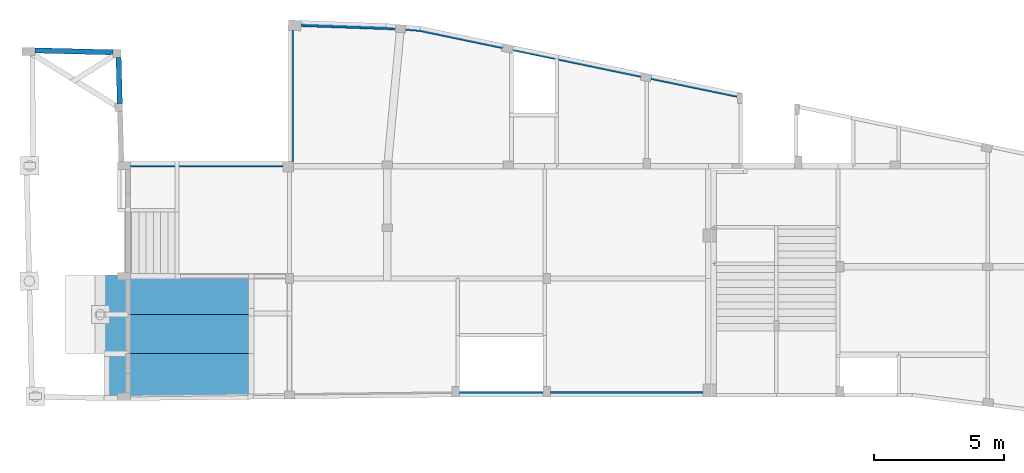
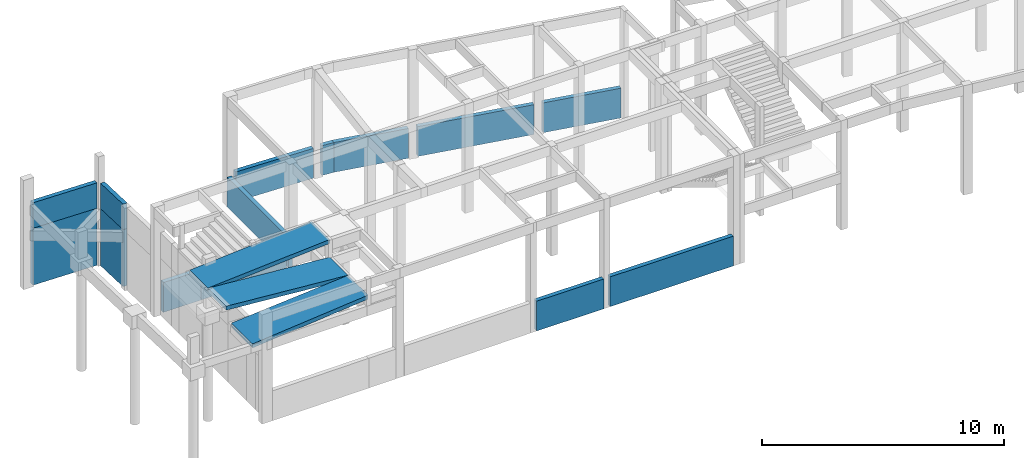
# One storey, part 6 of 8: 14 walls, 3 ramp flights.
"""IFC4 building model written with IfcOpenShell, lengths in centimetres."""

from ifc_helpers import new_model, si_unit, derived_unit, frame, origin, origin_with_axes, origin_2d_with_axis, place, context, project, spatial, rectangle, extrude, clip, halfspace, faceted_brep, material, element, save


model = new_model("IFC4")

# Units and contexts
model_context = context("Model", 3, precision=1e-05, world=origin_with_axes(), identifier="Body")
ifc_project = project(units=[si_unit("LENGTHUNIT", "METRE", prefix="CENTI"), si_unit("VOLUMEUNIT", "CUBIC_METRE"), si_unit("AREAUNIT", "SQUARE_METRE"), si_unit("POWERUNIT", "WATT"), si_unit("LUMINOUSFLUXUNIT", "LUMEN"), si_unit("ELECTRICCURRENTUNIT", "AMPERE"), si_unit("PRESSUREUNIT", "PASCAL", prefix="KILO"), si_unit("MASSUNIT", "GRAM", prefix="KILO"), si_unit("PLANEANGLEUNIT", "RADIAN"), derived_unit("VOLUMETRICFLOWRATEUNIT", [(si_unit("LENGTHUNIT", "METRE"), 3), (si_unit("TIMEUNIT", "SECOND"), -1)])], contexts=[model_context])

# Site, building, storey
site_placement = place(None, origin_with_axes())
site = spatial("IfcSite", under=ifc_project, at=site_placement)
building_placement = place(site_placement, origin())
building = spatial("IfcBuilding", under=site, at=building_placement)
placement = place(building_placement, origin_with_axes())
storey_placement = place(placement, frame((0.0, 0.0, 550.0), z_axis=(0.0, 0.0, 1.0), x_axis=(1.0, 0.0, 0.0)))
storey = spatial("IfcBuildingStorey", under=building, at=storey_placement, Name="TÉRREO", CompositionType="ELEMENT", Elevation=550.0)

# Walls
ifc_material = material(Name="Concreto")
wall_1_placement = place(storey_placement, frame((1255.98, 84.5, -400.0), z_axis=(0.0, 0.0, 1.0), x_axis=(1.0, 0.0, 0.0)))
element("IfcWall", 1, at=wall_1_placement, inside=storey, material=ifc_material, Name="PAR1", PredefinedType="SHEAR", context=model_context, shape_type="SolidModel", body=[
    extrude(rectangle(XDim=20.0, YDim=150.0, at=origin_2d_with_axis()), frame((181.02, -6.42, -75.0), z_axis=(-0.999371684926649, 0.035443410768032, 0.0), x_axis=(0.035443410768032, 0.999371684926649, 0.0)), (0.0, 0.0, 1.0), 362.26761820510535),
    extrude(rectangle(XDim=20.0, YDim=50.0, at=origin_2d_with_axis()), frame((181.02, -6.42, -25.0), z_axis=(-0.999371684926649, 0.035443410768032, 0.0), x_axis=(0.035443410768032, 0.999371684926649, 0.0)), (0.0, 0.0, 1.0), 362.26761820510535),
])
wall_2_placement = place(storey_placement, frame((2587.67, -147.23, -400.0), z_axis=(0.0, 0.0, 1.0), x_axis=(1.0, 0.0, 0.0)))
element("IfcWall", 2, at=wall_2_placement, inside=storey, material=ifc_material, Name="PAR10-A", PredefinedType="SHEAR", context=model_context, shape_type="SolidModel", body=[
    extrude(rectangle(XDim=20.0, YDim=150.0, at=origin_2d_with_axis()), frame((165.33, -34.33, -75.0), z_axis=(-0.979114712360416, 0.203308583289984, 0.0), x_axis=(0.203308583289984, 0.979114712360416, 0.0)), (0.0, 0.0, 1.0), 337.71323811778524),
    extrude(rectangle(XDim=20.0, YDim=50.0, at=origin_2d_with_axis()), frame((165.33, -34.33, -25.0), z_axis=(-0.979114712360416, 0.203308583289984, 0.0), x_axis=(0.203308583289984, 0.979114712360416, 0.0)), (0.0, 0.0, 1.0), 337.71323811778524),
])
wall_3_placement = place(storey_placement, frame((2136.08, -53.46, -400.0), z_axis=(0.0, 0.0, 1.0), x_axis=(1.0, 0.0, 0.0)))
element("IfcWall", 3, at=wall_3_placement, inside=storey, material=ifc_material, Name="PAR10-B", PredefinedType="SHEAR", context=model_context, shape_type="SolidModel", body=[
    extrude(rectangle(XDim=20.0, YDim=150.0, at=origin_2d_with_axis()), frame((247.1, -51.31, -75.0), z_axis=(-0.979114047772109, 0.203311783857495, 0.0), x_axis=(0.203311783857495, 0.979114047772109, 0.0)), (0.0, 0.0, 1.0), 504.7420176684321),
    extrude(rectangle(XDim=20.0, YDim=50.0, at=origin_2d_with_axis()), frame((247.1, -51.31, -25.0), z_axis=(-0.979114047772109, 0.203311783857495, 0.0), x_axis=(0.203311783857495, 0.979114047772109, 0.0)), (0.0, 0.0, 1.0), 504.7420176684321),
])
wall_4_placement = place(storey_placement, frame((1690.695, 39.08136093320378, -400.0), z_axis=(0.0, 0.0, 1.0), x_axis=(1.0, 0.0, 0.0)))
element("IfcWall", 4, at=wall_4_placement, inside=storey, material=ifc_material, Name="PAR10-C", PredefinedType="SHEAR", context=model_context, shape_type="Clipping", body=[
    clip(extrude(rectangle(XDim=20.0, YDim=150.0, at=origin_2d_with_axis()), frame((159.125, -33.10136093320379, -75.0), z_axis=(-0.979116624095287, 0.203299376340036, 0.0), x_axis=(0.203299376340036, 0.979116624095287, 0.0)), (0.0, 0.0, 1.0), 325.6415393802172), halfspace(frame((-160.56694906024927, 23.0647509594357, -150.0), z_axis=(0.989587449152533, -0.143932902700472, 0.0), x_axis=(0.0, 0.0, 0.060255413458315)), True)),
    extrude(rectangle(XDim=20.0, YDim=50.0, at=origin_2d_with_axis()), frame((159.125, -33.10136093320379, -25.0), z_axis=(-0.979116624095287, 0.203299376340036, 0.0), x_axis=(0.203299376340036, 0.979116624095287, 0.0)), (0.0, 0.0, 1.0), 325.0378884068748),
])
wall_5_placement = place(storey_placement, frame((1504.600757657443, 74.36, -400.0), z_axis=(0.0, 0.0, 1.0), x_axis=(1.0, 0.0, 0.0)))
element("IfcWall", 5, at=wall_5_placement, inside=storey, material=ifc_material, Name="PAR10-D", PredefinedType="SHEAR", context=model_context, shape_type="Clipping", body=[
    clip(extrude(rectangle(XDim=20.0, YDim=150.0, at=origin_2d_with_axis()), frame((27.570757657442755, -2.350732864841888, -75.0), z_axis=(-0.996462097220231, 0.08404337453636, 0.0), x_axis=(0.08404337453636, 0.996462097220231, 0.0)), (0.0, 0.0, 1.0), 55.337293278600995), halfspace(frame((25.52729328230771, -12.213888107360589, 0.0), z_axis=(-0.989587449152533, 0.143932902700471, 0.0), x_axis=(0.0, 0.0, 0.060255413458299)), True)),
    extrude(rectangle(XDim=20.0, YDim=50.0, at=origin_2d_with_axis()), frame((26.96924234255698, -2.3, -25.0), z_axis=(-0.996462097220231, 0.08404337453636, 0.0), x_axis=(0.08404337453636, 0.996462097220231, 0.0)), (0.0, 0.0, 1.0), 54.73364230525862),
])
wall_6_placement = place(storey_placement, frame((200.475, -14.15, -263.0), z_axis=(0.0, 0.0, 1.0), x_axis=(1.0, 0.0, 0.0)))
element("IfcWall", 6, at=wall_6_placement, inside=storey, material=ifc_material, Name="PAR2", PredefinedType="SHEAR", context=model_context, shape_type="SolidModel", body=[
    extrude(rectangle(XDim=20.0, YDim=287.0, at=origin_2d_with_axis()), frame((-150.475, 3.66, -143.5), z_axis=(0.999704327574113, -0.024315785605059, 0.0), x_axis=(0.024315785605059, 0.999704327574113, 0.0)), (0.0, 0.0, 1.0), 301.0390089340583),
])
wall_7_placement = place(storey_placement, frame((200.475, -14.15, -135.0), z_axis=(0.0, 0.0, 1.0), x_axis=(1.0, 0.0, 0.0)))
element("IfcWall", 7, at=wall_7_placement, inside=storey, material=ifc_material, Name="PAR2", PredefinedType="SHEAR", context=model_context, shape_type="SolidModel", body=[
    extrude(rectangle(XDim=20.0, YDim=128.0, at=origin_2d_with_axis()), frame((-150.475, 3.66, -64.0), z_axis=(0.999704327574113, -0.024315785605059, 0.0), x_axis=(0.024315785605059, 0.999704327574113, 0.0)), (0.0, 0.0, 1.0), 301.0390089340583),
    extrude(rectangle(XDim=20.0, YDim=50.0, at=origin_2d_with_axis()), frame((-150.475, 3.66, -25.0), z_axis=(0.999704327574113, -0.024315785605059, 0.0), x_axis=(0.024315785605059, 0.999704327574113, 0.0)), (0.0, 0.0, 1.0), 301.0390089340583),
])
wall_8_placement = place(storey_placement, frame((800.75, -448.8, -400.0), z_axis=(0.0, 0.0, 1.0), x_axis=(1.0, 0.0, 0.0)))
element("IfcWall", 8, at=wall_8_placement, inside=storey, material=ifc_material, Name="PAR3-A", PredefinedType="SHEAR", context=model_context, shape_type="SolidModel", body=[
    extrude(rectangle(XDim=20.0, YDim=150.0, at=origin_2d_with_axis()), frame((204.25, 0.0, -75.0), z_axis=(-1.0, 0.0, 0.0), x_axis=(0.0, 1.0, 0.0)), (0.0, 0.0, 1.0), 408.5),
    extrude(rectangle(XDim=20.0, YDim=50.0, at=origin_2d_with_axis()), frame((204.25, 0.0, -25.0), z_axis=(-1.0, 0.0, 0.0), x_axis=(0.0, 1.0, 0.0)), (0.0, 0.0, 1.0), 408.5),
])
wall_9_placement = place(storey_placement, frame((507.125, -448.8, -400.0), z_axis=(0.0, 0.0, 1.0), x_axis=(1.0, 0.0, 0.0)))
element("IfcWall", 9, at=wall_9_placement, inside=storey, material=ifc_material, Name="PAR3-B", PredefinedType="SHEAR", context=model_context, shape_type="SolidModel", body=[
    extrude(rectangle(XDim=20.0, YDim=150.0, at=origin_2d_with_axis()), frame((89.375, 0.0, -75.0), z_axis=(-1.0, 0.0, 0.0), x_axis=(0.0, -1.0, 0.0)), (0.0, 0.0, 1.0), 178.75),
    extrude(rectangle(XDim=20.0, YDim=50.0, at=origin_2d_with_axis()), frame((89.375, 0.0, -25.0), z_axis=(-1.0, 0.0, 0.0), x_axis=(0.0, -1.0, 0.0)), (0.0, 0.0, 1.0), 178.75),
])
wall_10_placement = place(storey_placement, frame((1844.6, -1334.1, -400.0), z_axis=(0.0, 0.0, 1.0), x_axis=(1.0, 0.0, 0.0)))
element("IfcWall", 10, at=wall_10_placement, inside=storey, material=ifc_material, Name="PAR5-A", PredefinedType="SHEAR", context=model_context, shape_type="SolidModel", body=[
    extrude(rectangle(XDim=20.0, YDim=150.0, at=origin_2d_with_axis()), frame((-160.0, 0.0, -75.0), z_axis=(1.0, 0.0, 0.0), x_axis=(0.0, -1.0, 0.0)), (0.0, 0.0, 1.0), 320.0),
    extrude(rectangle(XDim=20.0, YDim=50.0, at=origin_2d_with_axis()), frame((-160.0, 0.0, -25.0), z_axis=(1.0, 0.0, 0.0), x_axis=(0.0, -1.0, 0.0)), (0.0, 0.0, 1.0), 320.0),
])
wall_11_placement = place(storey_placement, frame((2328.1, -1334.1, -400.0), z_axis=(0.0, 0.0, 1.0), x_axis=(1.0, 0.0, 0.0)))
element("IfcWall", 11, at=wall_11_placement, inside=storey, material=ifc_material, Name="PAR5-B", PredefinedType="SHEAR", context=model_context, shape_type="SolidModel", body=[
    extrude(rectangle(XDim=20.0, YDim=150.0, at=origin_2d_with_axis()), frame((-293.5, 0.0, -75.0), z_axis=(1.0, 0.0, 0.0), x_axis=(0.0, -1.0, 0.0)), (0.0, 0.0, 1.0), 587.0),
    extrude(rectangle(XDim=20.0, YDim=50.0, at=origin_2d_with_axis()), frame((-293.5, 0.0, -25.0), z_axis=(1.0, 0.0, 0.0), x_axis=(0.0, -1.0, 0.0)), (0.0, 0.0, 1.0), 587.0),
])
wall_12_placement = place(storey_placement, frame((374.12, -126.39, -263.0), z_axis=(0.0, 0.0, 1.0), x_axis=(1.0, 0.0, 0.0)))
element("IfcWall", 12, at=wall_12_placement, inside=storey, material=ifc_material, Name="PAR8-A", PredefinedType="SHEAR", context=model_context, shape_type="SolidModel", body=[
    extrude(rectangle(XDim=20.0, YDim=287.0, at=origin_2d_with_axis()), frame((-2.37, 88.59, -143.5), z_axis=(0.02674288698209, -0.999642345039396, 0.0), x_axis=(0.999642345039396, 0.02674288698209, 0.0)), (0.0, 0.0, 1.0), 177.2433919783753),
])
wall_13_placement = place(storey_placement, frame((374.12, -126.39, -135.0), z_axis=(0.0, 0.0, 1.0), x_axis=(1.0, 0.0, 0.0)))
element("IfcWall", 13, at=wall_13_placement, inside=storey, material=ifc_material, Name="PAR8-A", PredefinedType="SHEAR", context=model_context, shape_type="SolidModel", body=[
    extrude(rectangle(XDim=20.0, YDim=128.0, at=origin_2d_with_axis()), frame((-2.37, 88.59, -64.0), z_axis=(0.02674288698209, -0.999642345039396, 0.0), x_axis=(0.999642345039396, 0.02674288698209, 0.0)), (0.0, 0.0, 1.0), 177.2433919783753),
    extrude(rectangle(XDim=20.0, YDim=50.0, at=origin_2d_with_axis()), frame((-2.37, 88.59, -25.0), z_axis=(0.02674288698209, -0.999642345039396, 0.0), x_axis=(0.999642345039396, 0.02674288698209, 0.0)), (0.0, 0.0, 1.0), 177.2433919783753),
])
wall_14_placement = place(storey_placement, frame((1035.0, -186.265, -400.0), z_axis=(0.0, 0.0, 1.0), x_axis=(1.0, 0.0, 0.0)))
element("IfcWall", 14, at=wall_14_placement, inside=storey, material=ifc_material, Name="PAR9", PredefinedType="SHEAR", context=model_context, shape_type="SolidModel", body=[
    extrude(rectangle(XDim=20.0, YDim=150.0, at=origin_2d_with_axis()), frame((0.0, 252.535, -75.0), z_axis=(0.0, -1.0, 0.0), x_axis=(1.0, 0.0, 0.0)), (0.0, 0.0, 1.0), 505.07),
    extrude(rectangle(XDim=20.0, YDim=50.0, at=origin_2d_with_axis()), frame((0.0, 252.535, -25.0), z_axis=(0.0, -1.0, 0.0), x_axis=(1.0, 0.0, 0.0)), (0.0, 0.0, 1.0), 505.07),
])

# Ramp flights
ramp_flight_1_placement = place(storey_placement, frame((592.1, -952.1, 0.0), z_axis=(0.0, 0.0, 1.0), x_axis=(1.0, 0.0, 0.0)))
element("IfcRampFlight", 15, at=ramp_flight_1_placement, inside=storey, material=ifc_material, Name="LE10", context=model_context, shape_type="SolidModel", body=[
    faceted_brep([(-290.5, -75.25, -62.05218912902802), (-290.5, 75.25, -62.05218912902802), (290.5, 75.25, -20.052189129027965), (290.5, -75.25, -20.052189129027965), (290.5, -75.25, 0.0), (290.5, 75.25, 0.0), (-290.5, 75.25, -42.0), (-290.5, -75.25, -42.0)], [[[0, 1, 2, 3]], [[4, 5, 6, 7]], [[4, 3, 5]], [[3, 2, 5]], [[5, 2, 6]], [[2, 1, 6]], [[6, 1, 7]], [[1, 0, 7]], [[7, 0, 4]], [[0, 3, 4]]]),
])
ramp_flight_2_placement = place(storey_placement, frame((604.6, -1265.0, -89.0), z_axis=(0.0, 0.0, 1.0), x_axis=(1.0, 0.0, 0.0)))
element("IfcRampFlight", 16, at=ramp_flight_2_placement, inside=storey, material=ifc_material, Name="LE5", context=model_context, shape_type="SolidModel", body=[
    faceted_brep([(-278.0, -87.15, -66.06832755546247), (-278.0, -83.2, -66.06832755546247), (-278.0, 87.15, -66.06832755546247), (278.0, 87.15, -20.068327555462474), (278.0, -78.06730818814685, -20.068327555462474), (278.0, -78.06730818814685, 0.0), (278.0, 87.15, 0.0), (-278.0, 87.15, -46.0), (-278.0, -83.2, -46.0), (-278.0, -87.15, -46.0)], [[[0, 1, 2, 3, 4]], [[5, 6, 7, 8, 9]], [[5, 4, 6]], [[4, 3, 6]], [[6, 3, 7]], [[3, 2, 7]], [[7, 2, 8]], [[2, 1, 8]], [[8, 1, 9]], [[1, 0, 9]], [[9, 0, 5]], [[0, 4, 5]]]),
])
ramp_flight_3_placement = place(storey_placement, frame((592.1, -1102.6, -42.0), z_axis=(0.0, 0.0, 1.0), x_axis=(1.0, 0.0, 0.0)))
element("IfcRampFlight", 17, at=ramp_flight_3_placement, inside=storey, material=ifc_material, Name="LE7", context=model_context, shape_type="SolidModel", body=[
    faceted_brep([(-290.5, 75.25, -20.065333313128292), (290.5, 75.25, -67.06533331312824), (290.5, -75.25, -67.06533331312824), (-290.5, -75.25, -20.065333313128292), (-290.5, -75.25, 0.0), (290.5, -75.25, -47.0), (290.5, 75.25, -47.0), (-290.5, 75.25, 0.0)], [[[0, 1, 2, 3]], [[4, 5, 6, 7]], [[4, 3, 5]], [[3, 2, 5]], [[5, 2, 6]], [[2, 1, 6]], [[6, 1, 7]], [[1, 0, 7]], [[7, 0, 4]], [[0, 3, 4]]]),
])

save(model, "model.ifc")
